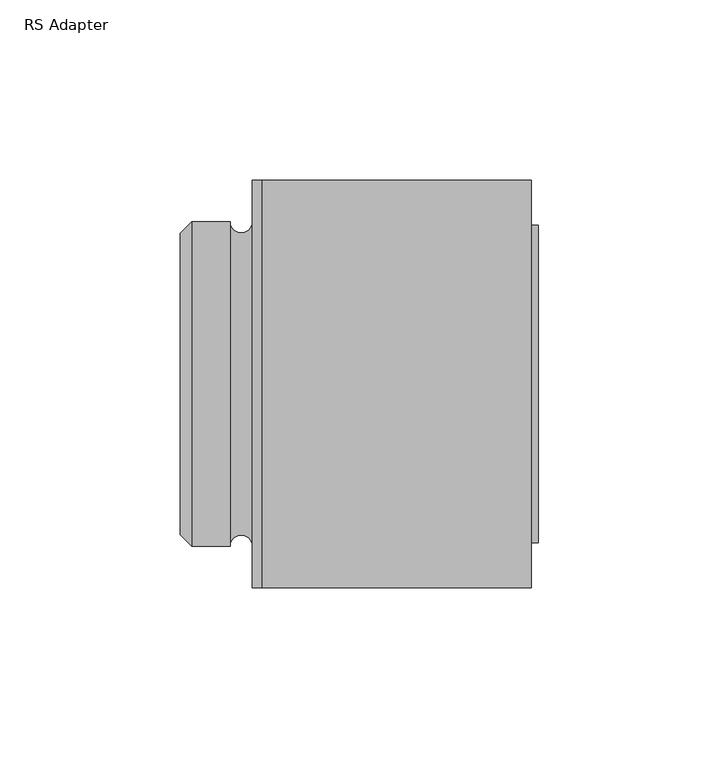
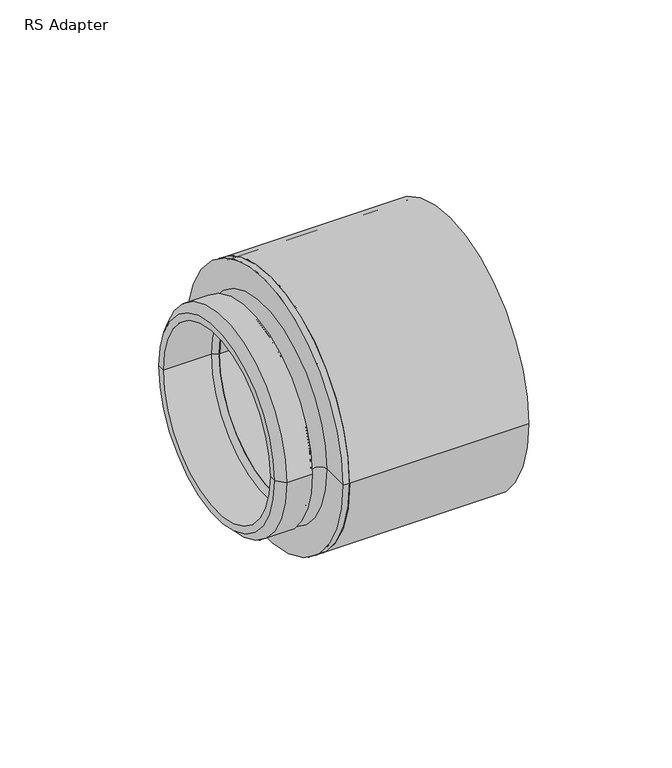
"""IFC4 building model written with IfcOpenShell, lengths in millimetres: pipe fitting geometry, RS Adapter : Superpipe RS Press Adapter."""

from ifc_helpers import new_model, si_unit, point, frame, origin, place, context, project, spatial, polyline, circle_curve, ellipse_curve, trimmed, source, transform, mapped, element, save
from ifc_brep_helpers import plane_surface, cylinder_surface, revolved_surface, advanced_brep


def rs_adapter_8da40ca7(model_context):
    return source(origin(), model_context, "Body", "AdvancedBrep", [
        advanced_brep(
        [(97.3, -56.5, 0.0), (97.3, 56.5, 0.0), (97.3, 55.0, 0.0), (97.3, -55.0, 0.0), (22.8, 55.0, 0.0), (22.8, -55.0, 0.0), (22.8, 56.5, 0.0), (22.8, -56.5, 0.0)],
        [
            (0, 1, circle_curve(frame((97.3, 0.0, 0.0), z_axis=(1.0, 0.0, 0.0), x_axis=(0.0, 1.0, 0.0)), 56.5)),
            (1, 2),
            (2, 3, circle_curve(frame((97.3, 0.0, 0.0), z_axis=(-1.0, 0.0, 0.0), x_axis=(0.0, 1.0, 0.0)), 55.0)),
            (3, 0),
            (2, 4),
            (4, 5, circle_curve(frame((22.8, 0.0, 0.0), z_axis=(-1.0, 0.0, 0.0), x_axis=(0.0, 1.0, 0.0)), 55.0)),
            (5, 3),
            (4, 6),
            (6, 7, circle_curve(frame((22.8, 0.0, 0.0), z_axis=(-1.0, 0.0, 0.0), x_axis=(0.0, 1.0, 0.0)), 56.5)),
            (7, 5),
            (6, 1),
            (0, 7),
            (6, 7, circle_curve(frame((22.8, 0.0, 0.0), z_axis=(1.0, 0.0, 0.0), x_axis=(0.0, 1.0, 0.0)), 56.5)),
            (0, 1, circle_curve(frame((97.3, 0.0, 0.0), z_axis=(-1.0, 0.0, 0.0), x_axis=(0.0, 1.0, 0.0)), 56.5)),
            (4, 5, circle_curve(frame((22.8, 0.0, 0.0), z_axis=(1.0, 0.0, 0.0), x_axis=(0.0, 1.0, 0.0)), 55.0)),
            (2, 3, circle_curve(frame((97.3, 0.0, 0.0), z_axis=(1.0, 0.0, 0.0), x_axis=(0.0, 1.0, 0.0)), 55.0)),
        ],
        [
            plane_surface(frame((97.3, 0.0, 0.0), z_axis=(1.0, 0.0, 0.0), x_axis=(0.0, 1.0, 0.0))),
            revolved_surface(polyline([(22.799999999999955, 55.0, 0.0), (97.29999999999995, 55.0, 0.0)]), (2034.5, 0.0, 0.0), (-1.0, 0.0, 0.0)),
            plane_surface(frame((22.8, 0.0, 0.0), z_axis=(-1.0, 0.0, 0.0), x_axis=(0.0, 1.0, 0.0))),
            cylinder_surface(frame((2034.5, 0.0, 0.0), z_axis=(-1.0, 0.0, 0.0), x_axis=(0.0, 1.0, 0.0)), 56.5),
        ],
        [
            (0, [[1, 2, 3, 4]]),
            (1, [[-3, 5, 6, 7]]),
            (2, [[-6, 8, 9, 10]]),
            (3, [[-9, 11, -1, 12]]),
            (3, [[13, -12, 14, -11]]),
            (2, [[15, -10, -13, -8]]),
            (1, [[16, -7, -15, -5]]),
            (0, [[-14, -4, -16, -2]]),
        ],
    ),
        advanced_brep(
        [(99.3, -44.0, 0.0), (99.3, 44.0, 0.0), (99.3, 37.5, 0.0), (99.3, -37.5, 0.0), (22.8, 37.5, 0.0), (22.8, -37.5, 0.0), (22.8, 44.0, 0.0), (22.8, -44.0, 0.0)],
        [
            (0, 1, circle_curve(frame((99.3, 0.0, 0.0), z_axis=(1.0, 0.0, 0.0), x_axis=(0.0, 1.0, 0.0)), 44.0)),
            (1, 2),
            (2, 3, circle_curve(frame((99.3, 0.0, 0.0), z_axis=(-1.0, 0.0, 0.0), x_axis=(0.0, 1.0, 0.0)), 37.5)),
            (3, 0),
            (2, 4),
            (4, 5, circle_curve(frame((22.8, 0.0, 0.0), z_axis=(-1.0, 0.0, 0.0), x_axis=(0.0, 1.0, 0.0)), 37.5)),
            (5, 3),
            (4, 6),
            (6, 7, circle_curve(frame((22.8, 0.0, 0.0), z_axis=(-1.0, 0.0, 0.0), x_axis=(0.0, 1.0, 0.0)), 44.0)),
            (7, 5),
            (6, 1),
            (0, 7),
            (6, 7, circle_curve(frame((22.8, 0.0, 0.0), z_axis=(1.0, 0.0, 0.0), x_axis=(0.0, 1.0, 0.0)), 44.0)),
            (0, 1, circle_curve(frame((99.3, 0.0, 0.0), z_axis=(-1.0, 0.0, 0.0), x_axis=(0.0, 1.0, 0.0)), 44.0)),
            (4, 5, circle_curve(frame((22.8, 0.0, 0.0), z_axis=(1.0, 0.0, 0.0), x_axis=(0.0, 1.0, 0.0)), 37.5)),
            (2, 3, circle_curve(frame((99.3, 0.0, 0.0), z_axis=(1.0, 0.0, 0.0), x_axis=(0.0, 1.0, 0.0)), 37.5)),
        ],
        [
            plane_surface(frame((99.3, 0.0, 0.0), z_axis=(1.0, 0.0, 0.0), x_axis=(0.0, 1.0, 0.0))),
            revolved_surface(polyline([(22.799999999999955, 37.5, 0.0), (99.29999999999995, 37.5, 0.0)]), (2034.5, 0.0, 0.0), (-1.0, 0.0, 0.0)),
            plane_surface(frame((22.8, 0.0, 0.0), z_axis=(-1.0, 0.0, 0.0), x_axis=(0.0, 1.0, 0.0))),
            cylinder_surface(frame((2034.5, 0.0, 0.0), z_axis=(-1.0, 0.0, 0.0), x_axis=(0.0, 1.0, 0.0)), 44.0),
        ],
        [
            (0, [[1, 2, 3, 4]]),
            (1, [[-3, 5, 6, 7]]),
            (2, [[-6, 8, 9, 10]]),
            (3, [[-9, 11, -1, 12]]),
            (3, [[13, -12, 14, -11]]),
            (2, [[15, -10, -13, -8]]),
            (1, [[16, -7, -15, -5]]),
            (0, [[-14, -4, -16, -2]]),
        ],
    ),
        advanced_brep(
        [(20.0, -56.5, 0.0), (20.0, 56.5, 0.0), (22.8, 56.5, 0.0), (22.8, -56.5, 0.0), (20.0, -45.0, 0.0), (20.0, 45.0, 0.0), (22.8, 37.5, 0.0), (22.8, -37.5, 0.0), (0.0, -41.8, 0.0), (0.0, 41.8, 0.0), (3.2, 45.0, 0.0), (3.2, -45.0, 0.0), (0.0, -38.8, 0.0), (0.0, 38.8, 0.0), (13.8, -45.0, 0.0), (13.8, 45.0, 0.0), (20.0, -38.8, 0.0), (20.0, 38.8, 0.0)],
        [
            (0, 1, circle_curve(frame((20.0, 0.0, 0.0), z_axis=(1.0, 0.0, 0.0), x_axis=(0.0, 1.0, 0.0)), 56.5)),
            (1, 2),
            (2, 3, circle_curve(frame((22.8, 0.0, 0.0), z_axis=(-1.0, 0.0, 0.0), x_axis=(0.0, 1.0, 0.0)), 56.5)),
            (3, 0),
            (1, 0, circle_curve(frame((20.0, 0.0, 0.0), z_axis=(1.0, 0.0, 0.0), x_axis=(0.0, 1.0, 0.0)), 56.5)),
            (3, 2, circle_curve(frame((22.8, 0.0, 0.0), z_axis=(-1.0, 0.0, 0.0), x_axis=(0.0, 1.0, 0.0)), 56.5)),
            (0, 4),
            (4, 5, circle_curve(frame((20.0, 0.0, 0.0), z_axis=(1.0, 0.0, 0.0), x_axis=(0.0, 1.0, 0.0)), 45.0)),
            (5, 1),
            (5, 4, circle_curve(frame((20.0, 0.0, 0.0), z_axis=(1.0, 0.0, 0.0), x_axis=(0.0, 1.0, 0.0)), 45.0)),
            (2, 6),
            (6, 7, circle_curve(frame((22.8, 0.0, 0.0), z_axis=(-1.0, 0.0, 0.0), x_axis=(0.0, 1.0, 0.0)), 37.5)),
            (7, 3),
            (7, 6, circle_curve(frame((22.8, 0.0, 0.0), z_axis=(-1.0, 0.0, 0.0), x_axis=(0.0, 1.0, 0.0)), 37.5)),
            (8, 9, circle_curve(frame((0.0, 0.0, 0.0), z_axis=(1.0, 0.0, 0.0), x_axis=(0.0, 1.0, 0.0)), 41.8)),
            (9, 10),
            (10, 11, circle_curve(frame((3.2, 0.0, 0.0), z_axis=(-1.0, 0.0, 0.0), x_axis=(0.0, 1.0, 0.0)), 45.0)),
            (11, 8),
            (9, 8, circle_curve(frame((0.0, 0.0, 0.0), z_axis=(1.0, 0.0, 0.0), x_axis=(0.0, 1.0, 0.0)), 41.8)),
            (11, 10, circle_curve(frame((3.2, 0.0, 0.0), z_axis=(-1.0, 0.0, 0.0), x_axis=(0.0, 1.0, 0.0)), 45.0)),
            (8, 12),
            (12, 13, circle_curve(frame((0.0, 0.0, 0.0), z_axis=(1.0, 0.0, 0.0), x_axis=(0.0, 1.0, 0.0)), 38.8)),
            (13, 9),
            (13, 12, circle_curve(frame((0.0, 0.0, 0.0), z_axis=(1.0, 0.0, 0.0), x_axis=(0.0, 1.0, 0.0)), 38.8)),
            (4, 14, circle_curve(frame((16.9, -45.0, 0.0), z_axis=(0.0, 0.0, 1.0), x_axis=(1.0, 0.0, 0.0)), 3.1)),
            (14, 15, circle_curve(frame((13.8, 0.0, 0.0), z_axis=(1.0, 0.0, 0.0), x_axis=(0.0, 1.0, 0.0)), 45.0)),
            (15, 5, circle_curve(frame((16.9, 45.0, 0.0), z_axis=(0.0, 0.0, 1.0), x_axis=(1.0, 0.0, 0.0)), 3.1)),
            (15, 14, circle_curve(frame((13.8, 0.0, 0.0), z_axis=(1.0, 0.0, 0.0), x_axis=(0.0, 1.0, 0.0)), 45.0)),
            (10, 15),
            (14, 11),
            (12, 16),
            (16, 17, circle_curve(frame((20.0, 0.0, 0.0), z_axis=(1.0, 0.0, 0.0), x_axis=(0.0, 1.0, 0.0)), 38.8)),
            (17, 13),
            (17, 16, circle_curve(frame((20.0, 0.0, 0.0), z_axis=(1.0, 0.0, 0.0), x_axis=(0.0, 1.0, 0.0)), 38.8)),
            (16, 7),
            (6, 17),
        ],
        [
            cylinder_surface(frame((2019.3, 0.0, 0.0), z_axis=(-1.0, 0.0, 0.0), x_axis=(0.0, 1.0, 0.0)), 56.5),
            plane_surface(frame((20.0, 0.0, 0.0), z_axis=(-1.0, 0.0, 0.0), x_axis=(0.0, 1.0, 0.0))),
            plane_surface(frame((22.8, 0.0, 0.0), z_axis=(1.0, 0.0, 0.0), x_axis=(0.0, 1.0, 0.0))),
            revolved_surface(polyline([(3.2, 45.0, 0.0), (0.0, 41.8, 0.0)]), (2019.3, 0.0, 0.0), (-1.0, 0.0, 0.0)),
            plane_surface(frame((0.0, 0.0, 0.0), z_axis=(-1.0, 0.0, 0.0), x_axis=(0.0, 1.0, 0.0))),
            revolved_surface(trimmed(ellipse_curve(frame((16.9, 45.0, 0.0), z_axis=(0.0, 0.0, -1.0), x_axis=(1.0, 0.0, 0.0)), 3.1, 3.1), [point((20.0, 45.0, 0.0))], [point((13.8, 45.0, 0.0))], True, "CARTESIAN"), (2019.3, 0.0, 0.0), (-1.0, 0.0, 0.0)),
            cylinder_surface(frame((2019.3, 0.0, 0.0), z_axis=(-1.0, 0.0, 0.0), x_axis=(0.0, 1.0, 0.0)), 45.0),
            revolved_surface(polyline([(0.0, 38.8, 0.0), (20.0, 38.8, 0.0)]), (2045.5, 0.0, 0.0), (-1.0, 0.0, 0.0)),
            revolved_surface(polyline([(20.0, 38.8, 0.0), (22.8, 37.5, 0.0)]), (2045.5, 0.0, 0.0), (-1.0, 0.0, 0.0)),
        ],
        [
            (0, [[1, 2, 3, 4]]),
            (0, [[-2, 5, -4, 6]]),
            (1, [[-1, 7, 8, 9]]),
            (1, [[-5, -9, 10, -7]]),
            (2, [[-3, 11, 12, 13]]),
            (2, [[-6, -13, 14, -11]]),
            (3, [[15, 16, 17, 18]]),
            (3, [[-16, 19, -18, 20]]),
            (4, [[-15, 21, 22, 23]]),
            (4, [[-19, -23, 24, -21]]),
            (5, [[-8, 25, 26, 27]]),
            (5, [[-10, -27, 28, -25]]),
            (6, [[-17, 29, -26, 30]]),
            (6, [[-20, -30, -28, -29]]),
            (7, [[31, 32, 33, -22]]),
            (7, [[-31, -24, -33, 34]]),
            (8, [[-32, 35, -12, 36]]),
            (8, [[-34, -36, -14, -35]]),
        ],
    ),
    ])


if __name__ == "__main__":
    model = new_model("IFC4")
    model_context = context("Model", 3, world=origin())
    ifc_project = project(units=[si_unit("LENGTHUNIT", "METRE", prefix="MILLI")], contexts=[model_context])
    site = spatial("IfcSite", under=ifc_project)
    building = spatial("IfcBuilding", under=site)
    placement = place(None, origin())
    rs_adapter_shape = rs_adapter_8da40ca7(model_context)
    element("IfcPipeFitting", 1, ObjectType="RS Adapter : Superpipe RS Press Adapter", at=placement, inside=building, context=model_context, shape_type="MappedRepresentation", body=[
        mapped(rs_adapter_shape, transform((0.0, 0.0, 0.0), x_axis=(1.0, 0.0, 0.0), y_axis=(0.0, 1.0, 0.0), z_axis=(0.0, 0.0, 1.0))),
    ])
    save(model, "model.ifc")
